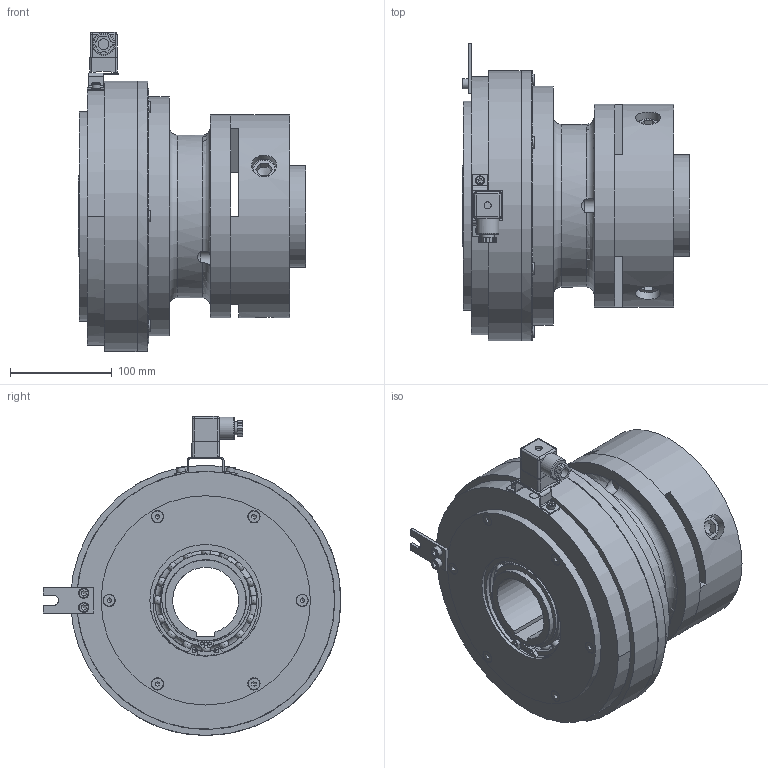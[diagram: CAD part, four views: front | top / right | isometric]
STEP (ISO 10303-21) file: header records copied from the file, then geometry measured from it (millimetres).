
FILE_DESCRIPTION(/* description */ (''),/* implementation_level */ '2;1');
FILE_NAME(/* name */ 'X:\INVENTOR\DISEGNI\08_Freni_Friz_Elettmag_Monodisco\08_26 EMSL_DF\EMSL_DF STEP\08_26_260_51 EMSL260_DF-GE_S@STEP.stp',/* time_stamp */ '2018-04-24T10:18:24+02:00',/* author */ ('stefano'),/* organization */ (''),/* preprocessor_version */ 'ST-DEVELOPER v17',/* originating_system */ 'Autodesk Inventor 2018',/* authorisation */ '');
FILE_SCHEMA (('AUTOMOTIVE_DESIGN { 1 0 10303 214 3 1 1 }'));
Length unit declared in the file: millimetre
Products named in the file (1): 08_26_260_51 EMSL260_DF-GE - Spina_Substitute_1
Bounding box: 224 x 293 x 313.9 mm (x, y, z)
Volume: 5582961.5 mm3; surface area: 793299.6 mm2
Topology: 3 solids, 3 shells, 1055 faces, 3212 edges, 2185 vertices
Faces by surface type: plane 453, cylinder 357, cone 105, torus 104, sphere 36
Full cylindrical faces by diameter (mm): 2 x7, 3 x2, 3.5 x2, 4.917 x10, 5 x5, 5.25 x2, 6.647 x6, 7 x7, 7.1 x18, 8.5 x2, 9 x1, 10 x12, 10.5 x1, 11 x18, 11.34 x6, 12 x6, 13 x7, 13.5 x6, 13.835 x3, 22 x1, 24 x6, 24.5 x6, 76.5 x1, 80 x2, 81.5 x1, 85 x2, 89.6 x4, 90 x1, 99 x1, 100 x2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
Entity records: 40575 total; most frequent: CARTESIAN_POINT 10804, ORIENTED_EDGE 6208, DIRECTION 6125, EDGE_CURVE 3104, AXIS2_PLACEMENT_3D 2496, VERTEX_POINT 2189, CIRCLE 1440, EDGE_LOOP 1343
